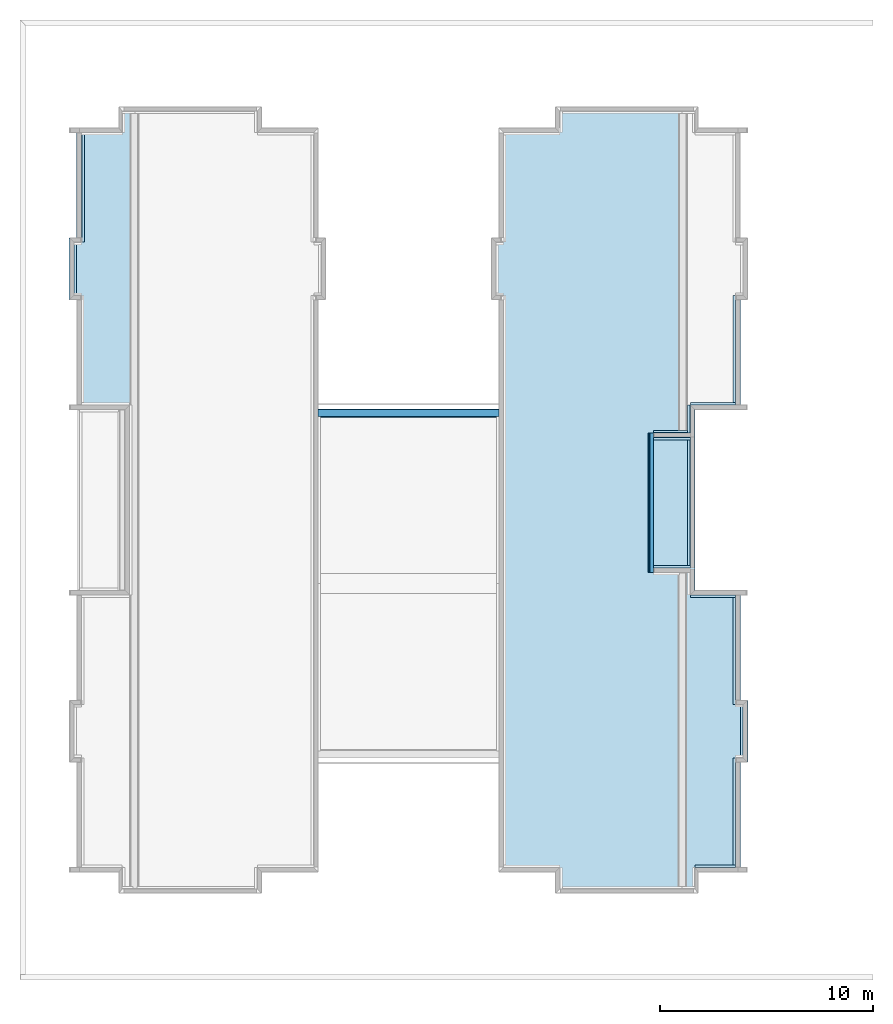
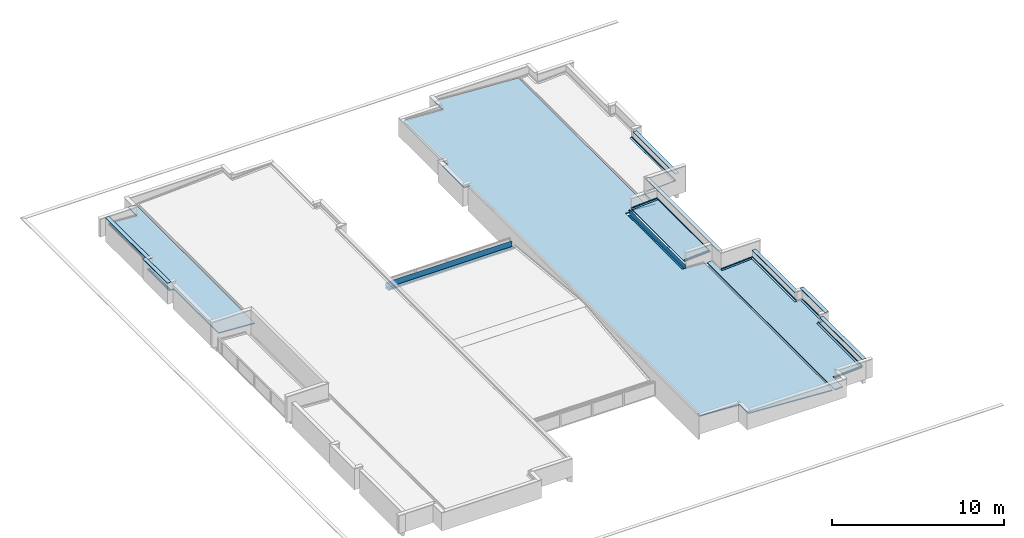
# One storey, part 12 of 25: 27 roofs.
"""IFC4 building model written with IfcOpenShell, lengths in metres."""

from ifc_helpers import new_model, entity, si_unit, converted_unit, derived_unit, direction, frame, origin_with_axes, place, context, subcontext, project, spatial, line, indexed_curve, outline, extrude, clip, halfspace, material, material_profile, profile_set, type_object, element, save


model = new_model("IFC4")

# Units and contexts
model_context = context("Model", 3, precision=1e-05, world=origin_with_axes(), true_north=direction((0.0, 1.0)))
body_context = subcontext(model_context, "Body", "Model", "MODEL_VIEW")
ifc_project = project(units=[si_unit("LENGTHUNIT", "METRE"), si_unit("AREAUNIT", "SQUARE_METRE"), si_unit("VOLUMEUNIT", "CUBIC_METRE"), converted_unit("PLANEANGLEUNIT", "DEGREE", entity("IfcPlaneAngleMeasure", 0.0174532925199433), si_unit("PLANEANGLEUNIT", "RADIAN"), dimensions=[0, 0, 0, 0, 0, 0, 0]), converted_unit("TIMEUNIT", "Year", entity("IfcTimeMeasure", 31557600.0), si_unit("TIMEUNIT", "SECOND"), dimensions=[0, 0, 1, 0, 0, 0, 0]), si_unit("MASSUNIT", "GRAM", prefix="KILO"), si_unit("THERMODYNAMICTEMPERATUREUNIT", "DEGREE_CELSIUS"), si_unit("LUMINOUSINTENSITYUNIT", "LUMEN"), si_unit("ENERGYUNIT", "JOULE", prefix="MEGA"), derived_unit("THERMALCONDUCTANCEUNIT", [(si_unit("POWERUNIT", "WATT"), 1), (si_unit("LENGTHUNIT", "METRE"), -1), (si_unit("THERMODYNAMICTEMPERATUREUNIT", "KELVIN"), -1)]), derived_unit("SPECIFICHEATCAPACITYUNIT", [(si_unit("ENERGYUNIT", "JOULE"), 1), (si_unit("MASSUNIT", "GRAM", prefix="KILO"), -1), (si_unit("THERMODYNAMICTEMPERATUREUNIT", "KELVIN"), -1)]), derived_unit("MASSDENSITYUNIT", [(si_unit("MASSUNIT", "GRAM", prefix="KILO"), 1), (si_unit("VOLUMEUNIT", "CUBIC_METRE"), -1)])], contexts=[model_context])

# Site, building, storey
site_placement = place(None, origin_with_axes())
site = spatial("IfcSite", under=ifc_project, at=site_placement, Name="PADRÃO", CompositionType="ELEMENT")
building_placement = place(site_placement, origin_with_axes())
building = spatial("IfcBuilding", under=site, at=building_placement, Name="CRECHE PRÉ-ESCOLA TIPO 2", CompositionType="ELEMENT")
storey_placement = place(building_placement, frame((0.0, 0.0, 3.26), z_axis=(0.0, 0.0, 1.0), x_axis=(1.0, 0.0, 0.0)))
storey = spatial("IfcBuildingStorey", under=building, at=storey_placement, Name="COBERTURA", CompositionType="ELEMENT", Elevation=3.26)

# Roofs
ifc_material_1 = material(Name="TELHA METÁLICA TERMOACÚSTICA")
roof_type_1 = type_object("IfcRoofType", Name="TELHA METÁLICA TERMOACÚSTICA 70", PredefinedType="NOTDEFINED")
roof_1_placement = place(storey_placement, frame((-37.1437182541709, 26.9500563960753, 0.731255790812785), z_axis=(0.0, 0.0, 1.0), x_axis=(0.0, 1.0, 0.0)))
element("IfcRoof", 1, at=roof_1_placement, inside=storey, type_object=roof_type_1, material=ifc_material_1, Name="Cobert.-001", PredefinedType="NOTDEFINED", context=body_context, shape_type="SweptSolid", body=[
    extrude(outline(indexed_curve([(7.64994646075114, 0.00421028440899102), (7.64994646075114, 0.354818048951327), (5.14994649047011, 0.354818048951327), (5.14994649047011, 0.00421066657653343), (-5.28112538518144e-05, 0.00421066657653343), (-5.28112538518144e-05, -2.44097255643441), (13.8022250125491, -2.44097255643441), (13.8022250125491, -1.90928961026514), (12.7999455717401, -1.90928961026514), (12.7999455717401, 0.00421028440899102)], segments=[line(1, 2, 3, 4, 5, 6, 7, 8, 9, 10, 1)])), frame((0.0, 0.0, 0.0), z_axis=(0.0, -0.0603895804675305, 0.998174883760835), x_axis=(1.0, 0.0, 0.0)), (0.0, 0.0, 1.0), 0.07),
])
roof_2_placement = place(storey_placement, frame((-6.4398441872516, 18.0752100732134, 0.7296), z_axis=(0.0, 0.0, 1.0), x_axis=(3.84615343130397e-05, -0.999999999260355, 0.0)))
element("IfcRoof", 2, at=roof_2_placement, inside=storey, type_object=roof_type_1, material=ifc_material_1, Name="Cobert.-001", PredefinedType="NOTDEFINED", context=body_context, shape_type="SweptSolid", body=[
    extrude(outline(indexed_curve([(0.0250004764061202, 0.00423499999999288), (0.0250004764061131, -2.1548212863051), (-1.02494640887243, -2.15482128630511), (-1.02494640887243, -2.44028208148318), (13.8249353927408, -2.44028208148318), (13.8249361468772, -1.91000305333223), (12.8250007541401, -1.91000162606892), (12.8250000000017, 0.004235), (7.67493445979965, 0.004235), (7.67493445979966, 0.354799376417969), (5.17493302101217, 0.354799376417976), (5.17493302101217, 0.004235)], segments=[line(1, 2, 3, 4, 5, 6, 7, 8, 9, 10, 11, 12, 1)])), frame((0.0, 0.0, 0.0), z_axis=(0.0, -0.0603895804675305, 0.998174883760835), x_axis=(1.0, 0.0, 0.0)), (0.0, 0.0, 1.0), 0.07),
])
roof_3_placement = place(storey_placement, frame((-8.5514992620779, 19.3001358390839, 1.15922026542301), z_axis=(0.0, 0.0, 1.0), x_axis=(0.0, 1.0, 0.0)))
element("IfcRoof", 3, at=roof_3_placement, inside=storey, type_object=roof_type_1, material=ifc_material_1, Name="Cobert.-001", PredefinedType="NOTDEFINED", context=body_context, shape_type="SweptSolid", body=[
    extrude(outline(indexed_curve([(0.0, 1.75111367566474), (0.0, -0.004235), (6.14999999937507, -0.004235), (6.14999999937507, 1.75111367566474)], segments=[line(1, 2, 3, 4, 1)])), frame((0.0, 0.0, 0.0), z_axis=(0.0, 0.0603895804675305, 0.998174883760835), x_axis=(1.0, 0.0, 0.0)), (0.0, 0.0, 1.0), 0.07),
])
roof_4_placement = place(storey_placement, frame((-9.03936801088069, 4.25022062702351, 0.605163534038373), z_axis=(0.0, 0.0, 1.0), x_axis=(0.0, 1.0, 0.0)))
element("IfcRoof", 4, at=roof_4_placement, inside=storey, type_object=roof_type_1, material=ifc_material_1, Name="Cobert.-005", PredefinedType="NOTDEFINED", context=body_context, shape_type="SweptSolid", body=[
    extrude(outline(indexed_curve([(30.3499467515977, 8.31981046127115), (30.3499467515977, 8.67040166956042), (27.8499677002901, 8.67040166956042), (27.8499677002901, 8.31981046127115), (0.99993539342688, 8.31981046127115), (0.999935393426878, 5.66503691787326), (0.0, 5.66503691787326), (0.0, 0.0042), (0.999935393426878, 0.0042), (14.8499353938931, 0.0042), (14.8499353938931, 1.531233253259), (21.3999353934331, 1.531233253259), (21.3999353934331, 0.0042), (36.4999152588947, 0.0042), (36.4999152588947, 5.66501461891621), (35.4998697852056, 5.66501461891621), (35.4998697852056, 8.31981046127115)], segments=[line(1, 2, 3, 4, 5, 6, 7, 8, 9, 10, 11, 12, 13, 14, 15, 16, 17, 1)])), frame((0.0, 0.0, 0.0), z_axis=(0.0, -0.0598922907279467, 0.998204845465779), x_axis=(1.0, 0.0, 0.0)), (0.0, 0.0, 1.0), 0.07),
])
ifc_material_2 = material(Name="RUFO EM CHAPA DE AÇO GALVANIZADO")
ifc_material_profile_1 = material_profile(ifc_material_2, outline(indexed_curve([(-0.123242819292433, 0.0), (-0.123136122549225, -0.000994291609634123), (-0.01, 0.0111462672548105), (-0.01, 0.0811462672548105), (0.000794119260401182, 0.0919771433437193), (8.58116060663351e-05, 0.0926830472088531), (-0.011, 0.0815594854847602), (-0.011, 0.0120446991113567), (-0.123136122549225, 1.14495535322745e-05)], segments=[line(1, 2, 3, 4, 5, 6, 7, 8, 9, 1)])), Name="RUFO EM CHAPA DE AÇO GALVANIZADO")
ifc_profile_set_1 = profile_set([ifc_material_profile_1], Name="FNDE-Rufo")
roof_type_2 = type_object("IfcRoofType", Name="FNDE-Rufo 124 x 94", PredefinedType="NOTDEFINED")
roof_5_placement = place(storey_placement, frame((-8.57057334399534, 25.6490390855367, 0.673848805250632), z_axis=(0.0, 0.0, 1.0), x_axis=(0.0, 1.0, 0.0)))
element("IfcRoof", 5, at=roof_5_placement, inside=storey, type_object=roof_type_2, material=ifc_profile_set_1, Name="V01", PredefinedType="NOTDEFINED", context=body_context, shape_type="Clipping", body=[
    clip(clip(extrude(outline(indexed_curve([(-0.123242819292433, 0.0), (-0.123136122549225, -0.000994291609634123), (-0.01, 0.0111462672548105), (-0.01, 0.0811462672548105), (0.000794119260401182, 0.0919771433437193), (8.58116060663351e-05, 0.0926830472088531), (-0.011, 0.0815594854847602), (-0.011, 0.0120446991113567), (-0.123136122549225, 1.14495535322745e-05)], segments=[line(1, 2, 3, 4, 5, 6, 7, 8, 9, 1)])), frame((0.0, 1.73043448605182, 0.103453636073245), z_axis=(0.0, 0.998217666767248, 0.0596782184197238), x_axis=(-1.0, 0.0, 0.0)), (0.0, 0.0, -1.0), 1.74401133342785), halfspace(frame((0.0, 0.0, 0.0), z_axis=(0.0, 1.0, 0.0), x_axis=(0.0, 0.0, 1.0)), True)), halfspace(frame((0.0, 1.71996604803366, 0.0), z_axis=(0.0, -1.0, 0.0), x_axis=(0.0, 0.0, -1.0)), True)),
])
roof_6_placement = place(storey_placement, frame((-6.44001743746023, 26.9512531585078, 0.799836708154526), z_axis=(0.0, 0.0, 1.0), x_axis=(1.0, 0.0, 0.0)))
element("IfcRoof", 6, at=roof_6_placement, inside=storey, type_object=roof_type_2, material=ifc_profile_set_1, Name="V01", PredefinedType="NOTDEFINED", context=body_context, shape_type="SweptSolid", body=[
    extrude(outline(indexed_curve([(-0.123242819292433, 0.0), (-0.123136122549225, -0.000994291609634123), (-0.01, 0.0111462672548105), (-0.01, 0.0811462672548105), (0.000794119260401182, 0.0919771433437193), (8.58116060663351e-05, 0.0926830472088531), (-0.011, 0.0815594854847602), (-0.011, 0.0120446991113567), (-0.123136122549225, 1.14495535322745e-05)], segments=[line(1, 2, 3, 4, 5, 6, 7, 8, 9, 1)])), frame((0.0, 5.14993254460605, 0.0), z_axis=(0.0, -1.0, 0.0), x_axis=(1.0, 0.0, 0.0)), (0.0, 0.0, 1.0), 5.14993254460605),
])
roof_7_placement = place(storey_placement, frame((-6.08974583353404, 10.4001686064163, 0.820898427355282), z_axis=(0.0, 0.0, 1.0), x_axis=(0.999999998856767, 4.78169980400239e-05, 0.0)))
element("IfcRoof", 7, at=roof_7_placement, inside=storey, type_object=roof_type_2, material=ifc_profile_set_1, Name="V01", PredefinedType="NOTDEFINED", context=body_context, shape_type="SweptSolid", body=[
    extrude(outline(indexed_curve([(-0.123242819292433, 0.0), (-0.123136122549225, -0.000994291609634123), (-0.01, 0.0111462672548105), (-0.01, 0.0811462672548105), (0.000794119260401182, 0.0919771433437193), (8.58116060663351e-05, 0.0926830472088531), (-0.011, 0.0815594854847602), (-0.011, 0.0120446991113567), (-0.123136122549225, 1.14495535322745e-05)], segments=[line(1, 2, 3, 4, 5, 6, 7, 8, 9, 1)])), frame((0.0, 2.49998732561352, 0.0), z_axis=(0.0, -1.0, 0.0), x_axis=(1.0, 0.0, 0.0)), (0.0, 0.0, 1.0), 2.49998732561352),
])
roof_8_placement = place(storey_placement, frame((-6.44012215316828, 12.9001559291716, 0.799887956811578), z_axis=(0.0, 0.0, 1.0), x_axis=(1.0, 0.0, 0.0)))
element("IfcRoof", 8, at=roof_8_placement, inside=storey, type_object=roof_type_2, material=ifc_profile_set_1, Name="V01", PredefinedType="NOTDEFINED", context=body_context, shape_type="SweptSolid", body=[
    extrude(outline(indexed_curve([(-0.123242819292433, 0.0), (-0.123136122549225, -0.000994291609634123), (-0.01, 0.0111462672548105), (-0.01, 0.0811462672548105), (0.000794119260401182, 0.0919771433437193), (8.58116060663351e-05, 0.0926830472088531), (-0.011, 0.0815594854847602), (-0.011, 0.0120446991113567), (-0.123136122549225, 1.14495535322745e-05)], segments=[line(1, 2, 3, 4, 5, 6, 7, 8, 9, 1)])), frame((0.0, 5.1499985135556, 0.0), z_axis=(0.0, -1.0, 0.0), x_axis=(1.0, 0.0, 0.0)), (0.0, 0.0, 1.0), 5.1499985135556),
])
roof_9_placement = place(storey_placement, frame((-6.44001743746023, 26.9512531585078, 0.799836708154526), z_axis=(0.0, 0.0, 1.0), x_axis=(0.0, 1.0, 0.0)))
element("IfcRoof", 9, at=roof_9_placement, inside=storey, type_object=roof_type_2, material=ifc_profile_set_1, Name="V01", PredefinedType="NOTDEFINED", context=body_context, shape_type="Clipping", body=[
    clip(clip(extrude(outline(indexed_curve([(-0.123242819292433, 0.0), (-0.123136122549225, -0.000994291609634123), (-0.01, 0.0111462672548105), (-0.01, 0.0811462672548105), (0.000794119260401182, 0.0919771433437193), (8.58116060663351e-05, 0.0926830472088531), (-0.011, 0.0815594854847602), (-0.011, 0.0120446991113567), (-0.123136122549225, 1.14495535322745e-05)], segments=[line(1, 2, 3, 4, 5, 6, 7, 8, 9, 1)])), frame((0.0, 2.14059123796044, -0.128435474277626), z_axis=(0.0, 0.998204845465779, -0.0598922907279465), x_axis=(-1.0, 0.0, 0.0)), (0.0, 0.0, -1.0), 2.15496572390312), halfspace(frame((0.0, 0.0, 0.0), z_axis=(0.0, 1.0, 0.0), x_axis=(0.0, 0.0, 1.0)), True)), halfspace(frame((0.0, 2.13008524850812, 0.0), z_axis=(0.0, -1.0, 0.0), x_axis=(0.0, 0.0, -1.0)), True)),
])
roof_10_placement = place(storey_placement, frame((-6.44012215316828, 18.0501544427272, 0.799887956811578), z_axis=(0.0, 0.0, 1.0), x_axis=(0.0, 1.0, 0.0)))
element("IfcRoof", 10, at=roof_10_placement, inside=storey, type_object=roof_type_2, material=ifc_profile_set_1, Name="V01", PredefinedType="NOTDEFINED", context=body_context, shape_type="Clipping", body=[
    clip(clip(extrude(outline(indexed_curve([(-0.123242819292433, 0.0), (-0.123136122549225, -0.000994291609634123), (-0.01, 0.0111462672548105), (-0.01, 0.0811462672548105), (0.000794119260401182, 0.0919771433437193), (8.58116060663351e-05, 0.0926830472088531), (-0.011, 0.0815594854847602), (-0.011, 0.0120446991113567), (-0.123136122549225, 1.14495535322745e-05)], segments=[line(1, 2, 3, 4, 5, 6, 7, 8, 9, 1)])), frame((0.0, 2.14095635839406, -0.128447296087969), z_axis=(0.0, -0.998205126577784, 0.0598876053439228), x_axis=(1.0, 0.0, 0.0)), (0.0, 0.0, 1.0), 2.15533007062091), halfspace(frame((0.0, 0.0, 0.0), z_axis=(0.0, 1.0, 0.0), x_axis=(0.0, 0.0, 1.0)), True)), halfspace(frame((0.0, 2.13045119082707, 0.0), z_axis=(0.0, -1.0, 0.0), x_axis=(0.0, 0.0, -1.0)), True)),
])
roof_11_placement = place(storey_placement, frame((-8.57057334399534, 19.3001559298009, 1.20876921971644), z_axis=(0.0, 0.0, 1.0), x_axis=(1.0, 0.0, 0.0)))
element("IfcRoof", 11, at=roof_11_placement, inside=storey, type_object=roof_type_2, material=ifc_profile_set_1, Name="V01", PredefinedType="NOTDEFINED", context=body_context, shape_type="SweptSolid", body=[
    extrude(outline(indexed_curve([(-0.123242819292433, 0.0), (-0.123136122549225, -0.000994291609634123), (-0.01, 0.0111462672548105), (-0.01, 0.0811462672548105), (0.000794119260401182, 0.0919771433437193), (8.58116060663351e-05, 0.0926830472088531), (-0.011, 0.0815594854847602), (-0.011, 0.0120446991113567), (-0.123136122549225, 1.14495535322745e-05)], segments=[line(1, 2, 3, 4, 5, 6, 7, 8, 9, 1)])), frame((0.0, 6.14999999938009, 0.0), z_axis=(0.0, -1.0, 0.0), x_axis=(1.0, 0.0, 0.0)), (0.0, 0.0, 1.0), 6.14999999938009),
])
roof_12_placement = place(storey_placement, frame((-8.5721166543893, 25.450155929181, 1.22810089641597), z_axis=(0.0, 0.0, 1.0), x_axis=(0.0, 1.0, 0.0)))
element("IfcRoof", 12, at=roof_12_placement, inside=storey, type_object=roof_type_2, material=ifc_profile_set_1, Name="V01", PredefinedType="NOTDEFINED", context=body_context, shape_type="Clipping", body=[
    clip(clip(extrude(outline(indexed_curve([(-0.123242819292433, 0.0), (-0.123136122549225, -0.000994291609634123), (-0.01, 0.0111462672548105), (-0.01, 0.0811462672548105), (0.000794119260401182, 0.0919771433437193), (8.58116060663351e-05, 0.0926830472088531), (-0.011, 0.0815594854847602), (-0.011, 0.0120446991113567), (-0.123136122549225, 1.14495535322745e-05)], segments=[line(1, 2, 3, 4, 5, 6, 7, 8, 9, 1)])), frame((0.0, 1.74203355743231, -0.104522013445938), z_axis=(0.0, -0.998204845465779, 0.0598922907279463), x_axis=(1.0, 0.0, 0.0)), (0.0, 0.0, 1.0), 1.75569128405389), halfspace(frame((0.0, 0.0, 0.0), z_axis=(0.0, 1.0, 0.0), x_axis=(0.0, 0.0, 1.0)), True)), halfspace(frame((0.0, 1.73152756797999, 0.0), z_axis=(0.0, -1.0, 0.0), x_axis=(0.0, 0.0, -1.0)), True)),
])
roof_13_placement = place(storey_placement, frame((-8.57057334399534, 19.3001559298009, 1.23780901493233), z_axis=(0.0, 0.0, 1.0), x_axis=(0.0, 1.0, 0.0)))
element("IfcRoof", 13, at=roof_13_placement, inside=storey, type_object=roof_type_2, material=ifc_profile_set_1, Name="V01", PredefinedType="NOTDEFINED", context=body_context, shape_type="Clipping", body=[
    clip(clip(extrude(outline(indexed_curve([(-0.123242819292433, 0.0), (-0.123136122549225, -0.000994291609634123), (-0.01, 0.0111462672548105), (-0.01, 0.0811462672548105), (0.000794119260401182, 0.0919771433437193), (8.58116060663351e-05, 0.0926830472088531), (-0.011, 0.0815594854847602), (-0.011, 0.0120446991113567), (-0.123136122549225, 1.14495535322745e-05)], segments=[line(1, 2, 3, 4, 5, 6, 7, 8, 9, 1)])), frame((0.0, 1.74353074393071, -0.104150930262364), z_axis=(0.0, 0.998220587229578, -0.0596293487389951), x_axis=(-1.0, 0.0, 0.0)), (0.0, 0.0, -1.0), 1.75711724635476), halfspace(frame((0.0, 0.0, 0.0), z_axis=(0.0, 1.0, 0.0), x_axis=(0.0, 0.0, 1.0)), True)), halfspace(frame((0.0, 1.73307087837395, 0.0), z_axis=(0.0, -1.0, 0.0), x_axis=(0.0, 0.0, -1.0)), True)),
])
roof_14_placement = place(storey_placement, frame((-8.57010268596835, 25.650135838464, 0.672143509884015), z_axis=(0.0, 0.0, 1.0), x_axis=(1.0, 0.0, 0.0)))
element("IfcRoof", 14, at=roof_14_placement, inside=storey, type_object=roof_type_2, material=ifc_profile_set_1, Name="V01", PredefinedType="NOTDEFINED", context=body_context, shape_type="SweptSolid", body=[
    extrude(outline(indexed_curve([(-0.123242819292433, 0.0), (-0.123136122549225, -0.000994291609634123), (-0.01, 0.0111462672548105), (-0.01, 0.0811462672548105), (0.000794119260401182, 0.0919771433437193), (8.58116060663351e-05, 0.0926830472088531), (-0.011, 0.0815594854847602), (-0.011, 0.0120446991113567), (-0.123136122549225, 1.14495535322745e-05)], segments=[line(1, 2, 3, 4, 5, 6, 7, 8, 9, 1)])), frame((0.0, 1.30111732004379, 0.0), z_axis=(0.0, -1.0, 0.0), x_axis=(1.0, 0.0, 0.0)), (0.0, 0.0, 1.0), 1.30111732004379),
])
roof_15_placement = place(storey_placement, frame((-6.44012215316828, 5.22515592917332, 0.799887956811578), z_axis=(0.0, 0.0, 1.0), x_axis=(1.0, 0.0, 0.0)))
element("IfcRoof", 15, at=roof_15_placement, inside=storey, type_object=roof_type_2, material=ifc_profile_set_1, Name="V01", PredefinedType="NOTDEFINED", context=body_context, shape_type="SweptSolid", body=[
    extrude(outline(indexed_curve([(-0.123242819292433, 0.0), (-0.123136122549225, -0.000994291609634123), (-0.01, 0.0111462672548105), (-0.01, 0.0811462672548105), (0.000794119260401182, 0.0919771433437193), (8.58116060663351e-05, 0.0926830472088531), (-0.011, 0.0815594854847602), (-0.011, 0.0120446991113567), (-0.123136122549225, 1.14495535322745e-05)], segments=[line(1, 2, 3, 4, 5, 6, 7, 8, 9, 1)])), frame((0.0, 5.17498731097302, 0.0), z_axis=(0.0, -1.0, 0.0), x_axis=(1.0, 0.0, 0.0)), (0.0, 0.0, 1.0), 5.17498731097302),
])
roof_16_placement = place(storey_placement, frame((-6.44012215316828, 5.25015602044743, 0.799727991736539), z_axis=(0.0, 0.0, 1.0), x_axis=(0.0, 1.0, 0.0)))
element("IfcRoof", 16, at=roof_16_placement, inside=storey, type_object=roof_type_2, material=ifc_profile_set_1, Name="V01", PredefinedType="NOTDEFINED", context=body_context, shape_type="Clipping", body=[
    clip(clip(extrude(outline(indexed_curve([(-0.123242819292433, 0.0), (-0.123136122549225, -0.000994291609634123), (-0.01, 0.0111462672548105), (-0.01, 0.0811462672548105), (0.000794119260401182, 0.0919771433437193), (8.58116060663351e-05, 0.0926830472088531), (-0.011, 0.0815594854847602), (-0.011, 0.0120446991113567), (-0.123136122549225, 1.14495535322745e-05)], segments=[line(1, 2, 3, 4, 5, 6, 7, 8, 9, 1)])), frame((0.0, 1.92108596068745, -0.116199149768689), z_axis=(0.0, 0.998175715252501, -0.0603758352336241), x_axis=(-1.0, 0.0, 0.0)), (0.0, 0.0, -1.0), 1.93520713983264), halfspace(frame((0.0, 0.0, 0.0), z_axis=(0.0, 1.0, 0.0), x_axis=(0.0, 0.0, 1.0)), True)), halfspace(frame((0.0, 1.9104951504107, 0.0), z_axis=(0.0, -1.0, 0.0), x_axis=(0.0, 0.0, -1.0)), True)),
])
roof_17_placement = place(storey_placement, frame((-37.4933257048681, 32.0999361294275, 0.820097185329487), z_axis=(0.0, 0.0, 1.0), x_axis=(1.0, 0.0, 0.0)))
element("IfcRoof", 17, at=roof_17_placement, inside=storey, type_object=roof_type_2, material=ifc_profile_set_1, Name="V01", PredefinedType="NOTDEFINED", context=body_context, shape_type="SweptSolid", body=[
    extrude(outline(indexed_curve([(-0.123242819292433, 0.0), (-0.123136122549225, -0.000994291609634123), (-0.01, 0.0111462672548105), (-0.01, 0.0811462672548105), (0.000794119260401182, 0.0919771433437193), (8.58116060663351e-05, 0.0926830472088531), (-0.011, 0.0815594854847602), (-0.011, 0.0120446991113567), (-0.123136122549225, 1.14495535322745e-05)], segments=[line(1, 2, 3, 4, 5, 6, 7, 8, 9, 1)])), frame((0.0, 2.50000143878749, 0.0), z_axis=(0.0, 1.0, 0.0), x_axis=(-1.0, 0.0, 0.0)), (0.0, 0.0, -1.0), 2.50000143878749),
])
roof_18_placement = place(storey_placement, frame((-37.1327013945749, 34.599937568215, 0.799931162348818), z_axis=(0.0, 0.0, 1.0), x_axis=(1.0, 0.0, 0.0)))
element("IfcRoof", 18, at=roof_18_placement, inside=storey, type_object=roof_type_2, material=ifc_profile_set_1, Name="V01", PredefinedType="NOTDEFINED", context=body_context, shape_type="SweptSolid", body=[
    extrude(outline(indexed_curve([(-0.123242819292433, 0.0), (-0.123136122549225, -0.000994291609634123), (-0.01, 0.0111462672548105), (-0.01, 0.0811462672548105), (0.000794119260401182, 0.0919771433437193), (8.58116060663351e-05, 0.0926830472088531), (-0.011, 0.0815594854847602), (-0.011, 0.0120446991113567), (-0.123136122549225, 1.14495535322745e-05)], segments=[line(1, 2, 3, 4, 5, 6, 7, 8, 9, 1)])), frame((0.0, 5.13906554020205, 0.0), z_axis=(0.0, 1.0, 0.0), x_axis=(-1.0, 0.0, 0.0)), (0.0, 0.0, -1.0), 5.13906554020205),
])
ifc_material_3 = material(Name="PINGADEIRA EM CHAPA DE AÇO GALVANIZADO")
ifc_material_profile_2 = material_profile(ifc_material_3, outline(indexed_curve([(0.00496259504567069, -0.0184313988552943), (0.0250000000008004, -0.03), (0.0250000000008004, 0.01), (-0.225020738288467, 0.01), (-0.22503740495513, -0.03), (-0.205, -0.0184313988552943), (-0.2055, -0.0175653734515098), (-0.224036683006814, -0.0282675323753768), (-0.224021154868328, 0.009), (0.0240000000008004, 0.009), (0.0240000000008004, -0.0282679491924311), (0.00546259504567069, -0.0175653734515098)], segments=[line(1, 2, 3, 4, 5, 6, 7, 8, 9, 10, 11, 12, 1)])), Name="PINGADEIRA EM CHAPA DE AÇO GALVANIZADO")
ifc_profile_set_2 = profile_set([ifc_material_profile_2], Name="FNDE-Pingadeira em chapa de aço galvanizado")
roof_type_3 = type_object("IfcRoofType", Name="FNDE-Pingadeira em chapa de aço galvanizado 250 x 40", PredefinedType="NOTDEFINED")
roof_19_placement = place(storey_placement, frame((-8.37040795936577, 18.2501559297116, 1.86), z_axis=(0.0, 0.0, 1.0), x_axis=(0.999999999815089, 1.92307671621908e-05, 0.0)))
element("IfcRoof", 19, at=roof_19_placement, inside=storey, type_object=roof_type_3, material=ifc_profile_set_2, Name="V01", PredefinedType="NOTDEFINED", context=body_context, shape_type="SweptSolid", body=[
    extrude(outline(indexed_curve([(0.00496259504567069, -0.0184313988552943), (0.0250000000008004, -0.03), (0.0250000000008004, 0.01), (-0.225020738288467, 0.01), (-0.22503740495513, -0.03), (-0.205, -0.0184313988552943), (-0.2055, -0.0175653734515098), (-0.224036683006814, -0.0282675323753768), (-0.224021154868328, 0.009), (0.0240000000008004, 0.009), (0.0240000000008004, -0.0282679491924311), (0.00546259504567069, -0.0175653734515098)], segments=[line(1, 2, 3, 4, 5, 6, 7, 8, 9, 10, 11, 12, 1)])), frame((0.0, 8.50000000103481, 0.0), z_axis=(0.0, -1.0, 0.0), x_axis=(1.0, 0.0, 0.0)), (0.0, 0.0, 1.0), 8.50000000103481),
])
roof_20_placement = place(storey_placement, frame((-6.24056439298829, 5.25015592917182, 1.31), z_axis=(0.0, 0.0, 1.0), x_axis=(1.0, 0.0, 0.0)))
element("IfcRoof", 20, at=roof_20_placement, inside=storey, type_object=roof_type_3, material=ifc_profile_set_2, Name="V01", PredefinedType="NOTDEFINED", context=body_context, shape_type="SweptSolid", body=[
    extrude(outline(indexed_curve([(0.00496259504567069, -0.0184313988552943), (0.0250000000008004, -0.03), (0.0250000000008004, 0.01), (-0.225020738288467, 0.01), (-0.22503740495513, -0.03), (-0.205, -0.0184313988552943), (-0.2055, -0.0175653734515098), (-0.224036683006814, -0.0282675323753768), (-0.224021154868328, 0.009), (0.0240000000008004, 0.009), (0.0240000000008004, -0.0282679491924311), (0.00546259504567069, -0.0175653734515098)], segments=[line(1, 2, 3, 4, 5, 6, 7, 8, 9, 10, 11, 12, 1)])), frame((0.0, 4.9500004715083, 0.0), z_axis=(0.0, -1.0, 0.0), x_axis=(1.0, 0.0, 0.0)), (0.0, 0.0, 1.0), 4.9500004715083),
])
roof_21_placement = place(storey_placement, frame((-5.89042815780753, 10.2001847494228, 1.51), z_axis=(0.0, 0.0, 1.0), x_axis=(0.999999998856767, 4.78169980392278e-05, 0.0)))
element("IfcRoof", 21, at=roof_21_placement, inside=storey, type_object=roof_type_3, material=ifc_profile_set_2, Name="V01", PredefinedType="NOTDEFINED", context=body_context, shape_type="SweptSolid", body=[
    extrude(outline(indexed_curve([(0.00496259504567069, -0.0184313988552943), (0.0250000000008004, -0.03), (0.0250000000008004, 0.01), (-0.225020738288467, 0.01), (-0.22503740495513, -0.03), (-0.205, -0.0184313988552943), (-0.2055, -0.0175653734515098), (-0.224036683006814, -0.0282675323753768), (-0.224021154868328, 0.009), (0.0240000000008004, 0.009), (0.0240000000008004, -0.0282679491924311), (0.00546259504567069, -0.0175653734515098)], segments=[line(1, 2, 3, 4, 5, 6, 7, 8, 9, 10, 11, 12, 1)])), frame((0.0, 2.89997118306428, 0.0), z_axis=(0.0, -1.0, 0.0), x_axis=(1.0, 0.0, 0.0)), (0.0, 0.0, 1.0), 2.89997118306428),
])
roof_22_placement = place(storey_placement, frame((-6.24056402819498, 13.1001559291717, 1.31), z_axis=(0.0, 0.0, 1.0), x_axis=(1.0, 0.0, 0.0)))
element("IfcRoof", 22, at=roof_22_placement, inside=storey, type_object=roof_type_3, material=ifc_profile_set_2, Name="V01", PredefinedType="NOTDEFINED", context=body_context, shape_type="SweptSolid", body=[
    extrude(outline(indexed_curve([(0.00496259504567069, -0.0184313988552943), (0.0250000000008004, -0.03), (0.0250000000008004, 0.01), (-0.225020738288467, 0.01), (-0.22503740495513, -0.03), (-0.205, -0.0184313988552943), (-0.2055, -0.0175653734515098), (-0.224036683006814, -0.0282675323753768), (-0.224021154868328, 0.009), (0.0240000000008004, 0.009), (0.0240000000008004, -0.0282679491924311), (0.00546259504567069, -0.0175653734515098)], segments=[line(1, 2, 3, 4, 5, 6, 7, 8, 9, 10, 11, 12, 1)])), frame((0.0, 4.94999872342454, 0.0), z_axis=(0.0, -1.0, 0.0), x_axis=(1.0, 0.0, 0.0)), (0.0, 0.0, 1.0), 4.94999872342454),
])
roof_23_placement = place(storey_placement, frame((-6.24098576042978, 31.8995611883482, 1.31), z_axis=(0.0, 0.0, 1.0), x_axis=(-1.0, 0.0, 0.0)))
element("IfcRoof", 23, at=roof_23_placement, inside=storey, type_object=roof_type_3, material=ifc_profile_set_2, Name="V01", PredefinedType="NOTDEFINED", context=body_context, shape_type="SweptSolid", body=[
    extrude(outline(indexed_curve([(0.00496259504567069, -0.0184313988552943), (0.0250000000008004, -0.03), (0.0250000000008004, 0.01), (-0.225020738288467, 0.01), (-0.22503740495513, -0.03), (-0.205, -0.0184313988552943), (-0.2055, -0.0175653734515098), (-0.224036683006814, -0.0282675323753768), (-0.224021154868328, 0.009), (0.0240000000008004, 0.009), (0.0240000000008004, -0.0282679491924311), (0.00546259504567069, -0.0175653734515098)], segments=[line(1, 2, 3, 4, 5, 6, 7, 8, 9, 10, 11, 12, 1)])), frame((0.0, 4.94940455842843, 0.0), z_axis=(0.0, 1.0, 0.0), x_axis=(-1.0, 0.0, 0.0)), (0.0, 0.0, -1.0), 4.94940455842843),
])
roof_24_placement = place(storey_placement, frame((-37.3401040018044, 39.7200015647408, 1.31), z_axis=(0.0, 0.0, 1.0), x_axis=(-0.999999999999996, -9.30491854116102e-08, 0.0)))
element("IfcRoof", 24, at=roof_24_placement, inside=storey, type_object=roof_type_3, material=ifc_profile_set_2, Name="V01", PredefinedType="NOTDEFINED", context=body_context, shape_type="SweptSolid", body=[
    extrude(outline(indexed_curve([(0.00496259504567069, -0.0184313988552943), (0.0250000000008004, -0.03), (0.0250000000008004, 0.01), (-0.225020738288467, 0.01), (-0.22503740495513, -0.03), (-0.205, -0.0184313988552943), (-0.2055, -0.0175653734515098), (-0.224036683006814, -0.0282675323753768), (-0.224021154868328, 0.009), (0.0240000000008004, 0.009), (0.0240000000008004, -0.0282679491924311), (0.00546259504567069, -0.0175653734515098)], segments=[line(1, 2, 3, 4, 5, 6, 7, 8, 9, 10, 11, 12, 1)])), frame((0.0, 4.91999961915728, 0.0), z_axis=(0.0, -1.0, 0.0), x_axis=(1.0, 0.0, 0.0)), (0.0, 0.0, 1.0), 4.91999961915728),
])
roof_25_placement = place(storey_placement, frame((-37.690071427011, 34.8000019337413, 1.51), z_axis=(0.0, 0.0, 1.0), x_axis=(-1.0, 0.0, 0.0)))
element("IfcRoof", 25, at=roof_25_placement, inside=storey, type_object=roof_type_3, material=ifc_profile_set_2, Name="V01", PredefinedType="NOTDEFINED", context=body_context, shape_type="SweptSolid", body=[
    extrude(outline(indexed_curve([(0.00496259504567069, -0.0184313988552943), (0.0250000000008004, -0.03), (0.0250000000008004, 0.01), (-0.225020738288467, 0.01), (-0.22503740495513, -0.03), (-0.205, -0.0184313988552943), (-0.2055, -0.0175653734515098), (-0.224036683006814, -0.0282675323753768), (-0.224021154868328, 0.009), (0.0240000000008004, 0.009), (0.0240000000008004, -0.0282679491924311), (0.00546259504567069, -0.0175653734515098)], segments=[line(1, 2, 3, 4, 5, 6, 7, 8, 9, 10, 11, 12, 1)])), frame((0.0, 2.89999999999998, 0.0), z_axis=(0.0, -1.0, 0.0), x_axis=(1.0, 0.0, 0.0)), (0.0, 0.0, 1.0), 2.89999999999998),
])
ifc_material_4 = material(Name="CALHA EM CHAPA DE AÇO GALVANIZADO")
ifc_material_profile_3 = material_profile(ifc_material_4, outline(indexed_curve([(-0.223921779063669, 0.146893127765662), (-0.223972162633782, 0.14639567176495), (-0.174226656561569, 0.141357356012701), (-0.174233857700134, 0.0163573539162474), (0.174233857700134, -0.0163573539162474), (0.174187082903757, 0.38364264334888), (0.173687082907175, 0.38364264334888), (0.173733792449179, -0.0158082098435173), (-0.173733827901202, 0.0168126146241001), (-0.173726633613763, 0.141809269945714)], segments=[line(1, 2, 3, 4, 5, 6, 7, 8, 9, 10, 1)])), Name="CALHA EM CHAPA DE AÇO GALVANIZADO")
ifc_profile_set_3 = profile_set([ifc_material_profile_3], Name="FNDE-Calha 3")
roof_type_4 = type_object("IfcRoofType", Name="FNDE-Calha 3 398 x 400", PredefinedType="NOTDEFINED")
roof_26_placement = place(storey_placement, frame((-26.0400167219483, 26.5846765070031, 0.208970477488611), z_axis=(0.0, 0.0, 1.0), x_axis=(-1.54145043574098e-09, -1.0, 0.0)))
element("IfcRoof", 26, at=roof_26_placement, inside=storey, type_object=roof_type_4, material=ifc_profile_set_3, Name="V06", PredefinedType="NOTDEFINED", context=body_context, shape_type="SweptSolid", body=[
    extrude(outline(indexed_curve([(-0.223921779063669, 0.146893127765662), (-0.223972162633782, 0.14639567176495), (-0.174226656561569, 0.141357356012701), (-0.174233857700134, 0.0163573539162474), (0.174233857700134, -0.0163573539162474), (0.174187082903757, 0.38364264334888), (0.173687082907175, 0.38364264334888), (0.173733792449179, -0.0158082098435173), (-0.173733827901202, 0.0168126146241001), (-0.173726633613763, 0.141809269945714)], segments=[line(1, 2, 3, 4, 5, 6, 7, 8, 9, 10, 1)])), frame((0.0, 8.49996619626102, 0.0), z_axis=(0.0, 1.0, 0.0), x_axis=(-1.0, 0.0, 0.0)), (0.0, 0.0, -1.0), 8.49996619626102),
])
ifc_material_profile_4 = material_profile(ifc_material_4, outline(indexed_curve([(-0.175113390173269, 0.130581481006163), (-0.125208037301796, 0.12750645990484), (-0.0840000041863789, 0.0), (0.0840000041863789, 0.0), (0.0840000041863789, 0.385000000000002), (0.0835000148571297, 0.385000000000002), (0.0835000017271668, 0.00049999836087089), (-0.0836361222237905, 0.000499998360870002), (-0.124830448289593, 0.127964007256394), (-0.175083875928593, 0.131060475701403)], segments=[line(1, 2, 3, 4, 5, 6, 7, 8, 9, 10, 1)])), Name="CALHA EM CHAPA DE AÇO GALVANIZADO")
ifc_profile_set_4 = profile_set([ifc_material_profile_4], Name="FNDE-Calha 4")
roof_type_5 = type_object("IfcRoofType", Name="FNDE-Calha 4 259 x 385", PredefinedType="NOTDEFINED")
roof_27_placement = place(storey_placement, frame((-10.3876442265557, 19.100155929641, 0.56949320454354), z_axis=(0.0, 0.0, 1.0), x_axis=(1.0, 0.0, 0.0)))
element("IfcRoof", 27, at=roof_27_placement, inside=storey, type_object=roof_type_5, material=ifc_profile_set_4, Name="V01", PredefinedType="NOTDEFINED", context=body_context, shape_type="SweptSolid", body=[
    extrude(outline(indexed_curve([(-0.175113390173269, 0.130581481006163), (-0.125208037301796, 0.12750645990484), (-0.0840000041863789, 0.0), (0.0840000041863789, 0.0), (0.0840000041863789, 0.385000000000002), (0.0835000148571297, 0.385000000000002), (0.0835000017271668, 0.00049999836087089), (-0.0836361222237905, 0.000499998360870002), (-0.124830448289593, 0.127964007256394), (-0.175083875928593, 0.131060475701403)], segments=[line(1, 2, 3, 4, 5, 6, 7, 8, 9, 10, 1)])), frame((0.0, 6.54888315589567, 0.0), z_axis=(0.0, -1.0, 0.0), x_axis=(1.0, 0.0, 0.0)), (0.0, 0.0, 1.0), 6.54888315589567),
])

save(model, "model.ifc")
